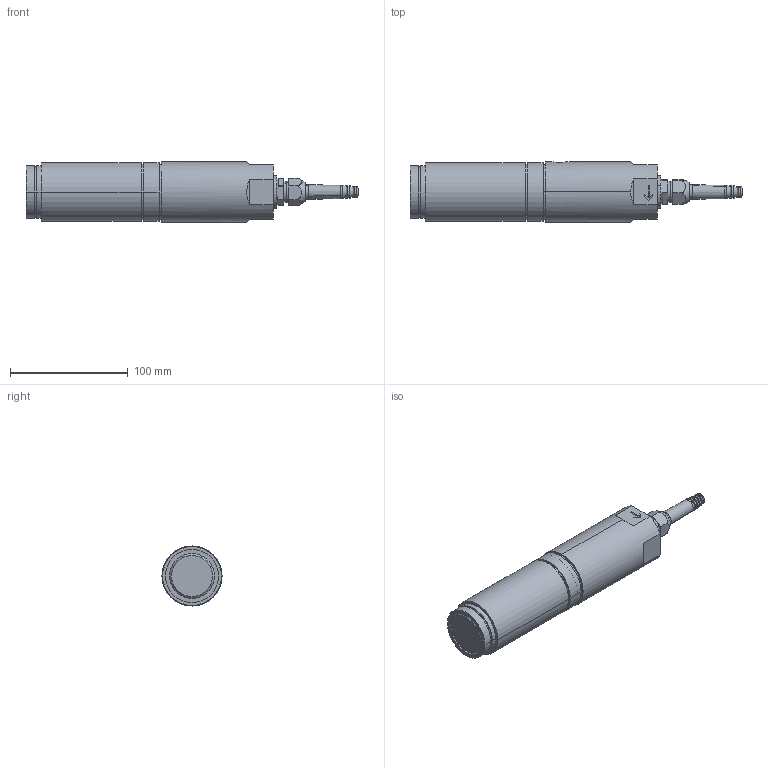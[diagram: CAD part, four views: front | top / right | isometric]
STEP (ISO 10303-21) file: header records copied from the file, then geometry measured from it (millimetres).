
FILE_DESCRIPTION (( 'STEP AP214' ), '1' );
FILE_NAME ('KIS-2 10 kN Load Cell.STEP', '2021-07-01T06:54:55', ( '' ), ( '' ), 'SwSTEP 2.0', 'SolidWorks 2021', '' );
FILE_SCHEMA (( 'AUTOMOTIVE_DESIGN' ));
Length unit declared in the file: millimetre
Products named in the file (7): Pg9 - 1009.52 6_2_14; Wiberger-frp_A2_6x18; 5159346r3; 4087778r5; M26x1.5 - Pg9 - 6369829; 6385540r1; KIS-2 10 kN Load Cell
Assembly tree (6 placements, depth 2):
  KIS-2 10 kN Load Cell
    4087778r5
    5159346r3
    6385540r1
    M26x1.5 - Pg9 - 6369829
    Pg9 - 1009.52 6_2_14
    Wiberger-frp_A2_6x18
Bounding box: 282 x 51 x 51 mm (x, y, z)
Volume: 407438.6 mm3; surface area: 86427.5 mm2
Topology: 6 solids, 9 shells, 406 faces, 1005 edges, 651 vertices
Faces by surface type: plane 201, cylinder 99, cone 54, bspline 40, torus 12
Entity records: 18463 total; most frequent: CARTESIAN_POINT 8367, ORIENTED_EDGE 2006, DIRECTION 1825, EDGE_CURVE 1003, VERTEX_POINT 651, AXIS2_PLACEMENT_3D 626, LINE 573, VECTOR 573
